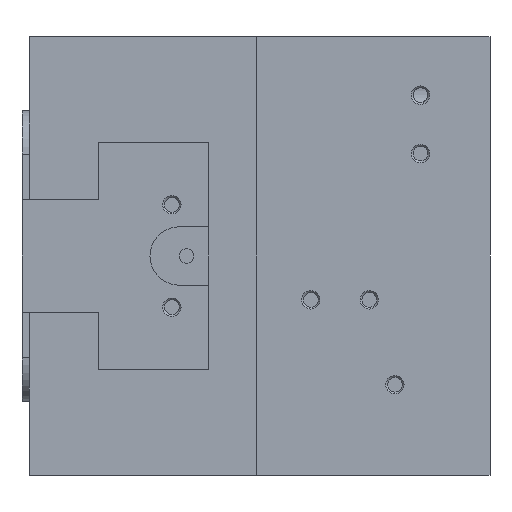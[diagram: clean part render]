
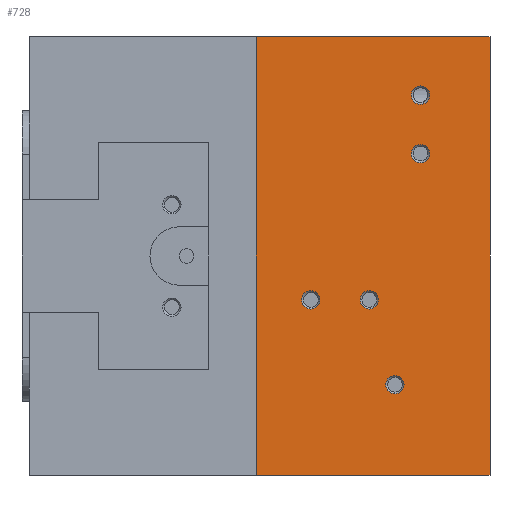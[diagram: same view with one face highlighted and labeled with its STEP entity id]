
A CAD part, left-side view. The second image highlights one B-rep face of the part: STEP entity #728.
In plain terms, the highlighted planar face has unit normal (-1, 0, 0).
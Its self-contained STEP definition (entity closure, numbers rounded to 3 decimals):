
#728 = ADVANCED_FACE( '', ( #1648, #1649, #1650, #1651, #1652, #1653 ), #1654, .F. );
#1648 = FACE_BOUND( '', #2726, .T. );
#1649 = FACE_BOUND( '', #2727, .T. );
#1650 = FACE_OUTER_BOUND( '', #2728, .T. );
#1651 = FACE_BOUND( '', #2729, .T. );
#1652 = FACE_BOUND( '', #2730, .T. );
#1653 = FACE_BOUND( '', #2731, .T. );
#1654 = PLANE( '', #2732 );
#2726 = EDGE_LOOP( '', ( #4433 ) );
#2727 = EDGE_LOOP( '', ( #4434 ) );
#2728 = EDGE_LOOP( '', ( #4435, #4436, #4437, #4438 ) );
#2729 = EDGE_LOOP( '', ( #4439 ) );
#2730 = EDGE_LOOP( '', ( #4440 ) );
#2731 = EDGE_LOOP( '', ( #4441 ) );
#2732 = AXIS2_PLACEMENT_3D( '', #4442, #4443, #4444 );
#4433 = ORIENTED_EDGE( '', *, *, #5830, .T. );
#4434 = ORIENTED_EDGE( '', *, *, #5407, .T. );
#4435 = ORIENTED_EDGE( '', *, *, #5910, .T. );
#4436 = ORIENTED_EDGE( '', *, *, #5911, .F. );
#4437 = ORIENTED_EDGE( '', *, *, #5713, .F. );
#4438 = ORIENTED_EDGE( '', *, *, #5894, .T. );
#4439 = ORIENTED_EDGE( '', *, *, #5912, .T. );
#4440 = ORIENTED_EDGE( '', *, *, #5913, .T. );
#4441 = ORIENTED_EDGE( '', *, *, #5567, .T. );
#4442 = CARTESIAN_POINT( '', ( -50., 32., 30. ) );
#4443 = DIRECTION( '', ( 1., 0., 0. ) );
#4444 = DIRECTION( '', ( 0., 0., -1. ) );
#5407 = EDGE_CURVE( '', #6279, #6279, #6280, .T. );
#5567 = EDGE_CURVE( '', #6539, #6539, #6540, .T. );
#5713 = EDGE_CURVE( '', #6769, #6771, #6772, .T. );
#5830 = EDGE_CURVE( '', #6947, #6947, #6948, .T. );
#5894 = EDGE_CURVE( '', #6769, #7045, #7047, .T. );
#5910 = EDGE_CURVE( '', #7045, #7069, #7070, .T. );
#5911 = EDGE_CURVE( '', #6771, #7069, #7071, .T. );
#5912 = EDGE_CURVE( '', #7072, #7072, #7073, .T. );
#5913 = EDGE_CURVE( '', #7074, #7074, #7075, .T. );
#6279 = VERTEX_POINT( '', #7591 );
#6280 = CIRCLE( '', #7592, 1.25 );
#6539 = VERTEX_POINT( '', #8129 );
#6540 = CIRCLE( '', #8130, 1.25 );
#6769 = VERTEX_POINT( '', #8508 );
#6771 = VERTEX_POINT( '', #8511 );
#6772 = LINE( '', #8512, #8513 );
#6947 = VERTEX_POINT( '', #8739 );
#6948 = CIRCLE( '', #8740, 1.25 );
#7045 = VERTEX_POINT( '', #8999 );
#7047 = LINE( '', #9002, #9003 );
#7069 = VERTEX_POINT( '', #9061 );
#7070 = LINE( '', #9062, #9063 );
#7071 = LINE( '', #9064, #9065 );
#7072 = VERTEX_POINT( '', #9066 );
#7073 = CIRCLE( '', #9067, 1.25 );
#7074 = VERTEX_POINT( '', #9068 );
#7075 = CIRCLE( '', #9069, 1.25 );
#7591 = CARTESIAN_POINT( '', ( -50., 24.5, -7.25 ) );
#7592 = AXIS2_PLACEMENT_3D( '', #9581, #9582, #9583 );
#8129 = CARTESIAN_POINT( '', ( -50., 9.5, 20.75 ) );
#8130 = AXIS2_PLACEMENT_3D( '', #9815, #9816, #9817 );
#8508 = CARTESIAN_POINT( '', ( -50., 32., 30. ) );
#8511 = CARTESIAN_POINT( '', ( -50., 0., 30. ) );
#8512 = CARTESIAN_POINT( '', ( -50., 32., 30. ) );
#8513 = VECTOR( '', #10004, 1000. );
#8739 = CARTESIAN_POINT( '', ( -50., 9.5, 12.75 ) );
#8740 = AXIS2_PLACEMENT_3D( '', #10149, #10150, #10151 );
#8999 = CARTESIAN_POINT( '', ( -50., 32., -30. ) );
#9002 = CARTESIAN_POINT( '', ( -50., 32., 30. ) );
#9003 = VECTOR( '', #10224, 1000. );
#9061 = CARTESIAN_POINT( '', ( -50., 0., -30. ) );
#9062 = CARTESIAN_POINT( '', ( -50., 32., -30. ) );
#9063 = VECTOR( '', #10240, 1000. );
#9064 = CARTESIAN_POINT( '', ( -50., 0., 30. ) );
#9065 = VECTOR( '', #10241, 1000. );
#9066 = CARTESIAN_POINT( '', ( -50., 16.5, -7.25 ) );
#9067 = AXIS2_PLACEMENT_3D( '', #10242, #10243, #10244 );
#9068 = CARTESIAN_POINT( '', ( -50., 13., -18.85 ) );
#9069 = AXIS2_PLACEMENT_3D( '', #10245, #10246, #10247 );
#9581 = CARTESIAN_POINT( '', ( -50., 24.5, -6. ) );
#9582 = DIRECTION( '', ( 1., 0., 0. ) );
#9583 = DIRECTION( '', ( 0., 0., -1. ) );
#9815 = CARTESIAN_POINT( '', ( -50., 9.5, 22. ) );
#9816 = DIRECTION( '', ( 1., 0., 0. ) );
#9817 = DIRECTION( '', ( 0., 0., -1. ) );
#10004 = DIRECTION( '', ( 0., -1., 0. ) );
#10149 = CARTESIAN_POINT( '', ( -50., 9.5, 14. ) );
#10150 = DIRECTION( '', ( 1., 0., 0. ) );
#10151 = DIRECTION( '', ( 0., 0., -1. ) );
#10224 = DIRECTION( '', ( 0., 0., -1. ) );
#10240 = DIRECTION( '', ( 0., -1., 0. ) );
#10241 = DIRECTION( '', ( 0., 0., -1. ) );
#10242 = CARTESIAN_POINT( '', ( -50., 16.5, -6. ) );
#10243 = DIRECTION( '', ( 1., 0., 0. ) );
#10244 = DIRECTION( '', ( 0., 0., -1. ) );
#10245 = CARTESIAN_POINT( '', ( -50., 13., -17.6 ) );
#10246 = DIRECTION( '', ( 1., 0., 0. ) );
#10247 = DIRECTION( '', ( 0., 0., -1. ) );
